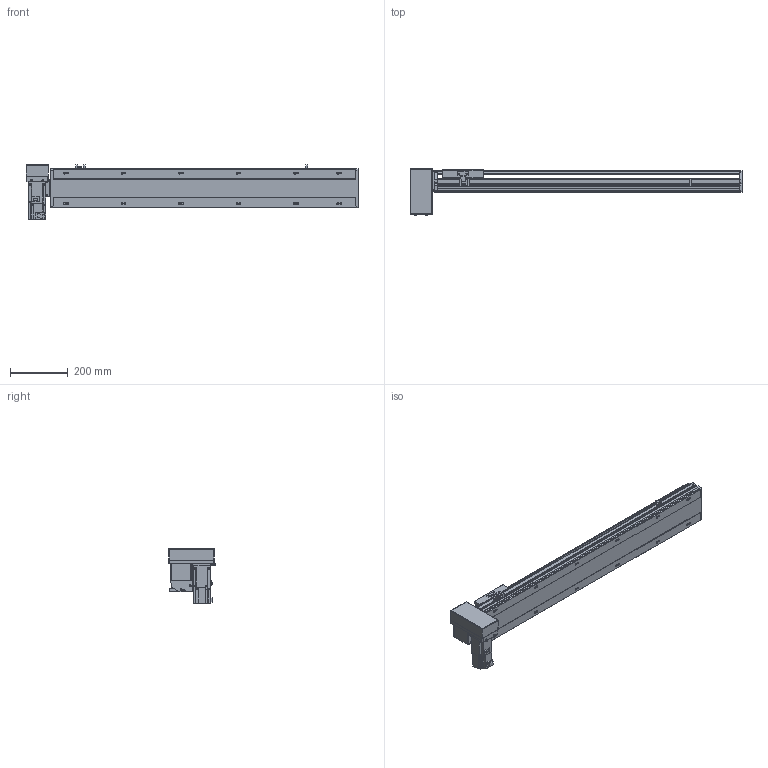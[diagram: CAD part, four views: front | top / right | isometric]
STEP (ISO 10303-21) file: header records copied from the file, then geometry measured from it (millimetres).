
FILE_DESCRIPTION( ( 'STEP AP214' ), '1' );
FILE_NAME( 'x:/temp/worker_1/temp/exporttempdir_5824_75_Ofl34/format_0/PBS140-P40-S800-RD-T40-C1-N(0).stp', '2022-06-07T05:34:51', ( 'License CC BY-ND 4.0' ), ( 'CADENAS' ), ' ', 'PARTsolutions', ' ' );
FILE_SCHEMA( ( 'AUTOMOTIVE_DESIGN { 1 0 10303 214 1 1 1 1 }' ) );
Length unit declared in the file: millimetre
Products named in the file (7): PBS140-P40-S800-RD-T40-C1-N(0); _PBS140-S800()_body; _PBS140T-RD_motors; _T40-p1; _PBS140_sliser; _PBS140_plant; _PBS140_sensor
Assembly tree (8 placements, depth 2):
  PBS140-P40-S800-RD-T40-C1-N(0)
    _PBS140-S800()_body
    _PBS140T-RD_motors
    _T40-p1
    _PBS140_sliser
    _PBS140_plant
    _PBS140_sensor  x3
Bounding box: 1154 x 162 x 189.7 mm (x, y, z)
Volume: 5675039.3 mm3; surface area: 1000793.3 mm2
Topology: 8 solids, 8 shells, 1043 faces, 2756 edges, 1801 vertices
Faces by surface type: plane 680, cylinder 315, cone 38, sphere 8, torus 2
Full cylindrical faces by diameter (mm): 3.242 x4, 4 x2, 4.134 x4, 4.4 x8, 4.5 x2, 4.8 x4, 4.917 x20, 5.5 x7, 6 x2, 7 x14, 7.5 x8, 8 x12, 8.5 x4, 10.5 x12, 14 x1, 30 x2, 50 x2
Entity records: 38005 total; most frequent: CARTESIAN_POINT 5915, DIRECTION 5057, ORIENTED_EDGE 4792, EDGE_CURVE 2396, AXIS2_PLACEMENT_3D 1747, VERTEX_POINT 1653, LINE 1563, VECTOR 1563
